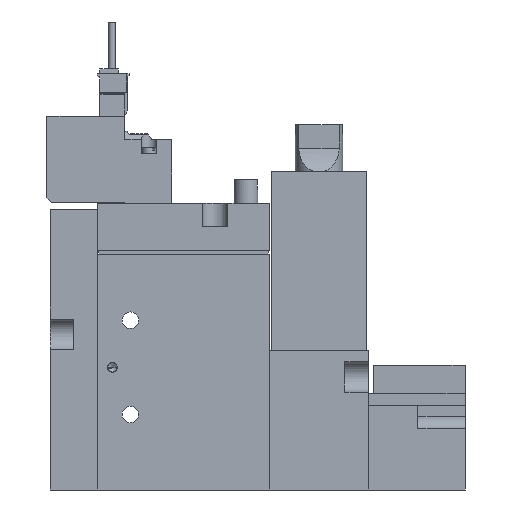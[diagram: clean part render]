
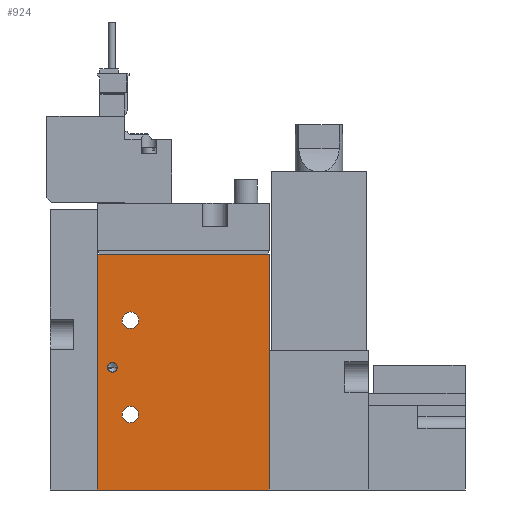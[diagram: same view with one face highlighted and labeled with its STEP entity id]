
A CAD part, left-side view. The second image highlights one B-rep face of the part: STEP entity #924.
In plain terms, the highlighted planar face has unit normal (-1, 0, 0) as drawn and (1, 0, 0) by its records, which use the part's own axes.
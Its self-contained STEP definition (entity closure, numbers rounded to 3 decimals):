
#924=ADVANCED_FACE('',(#1378,#1379,#1380,#1381),#1382,.F.);
#1378=FACE_BOUND('',#2169,.T.);
#1379=FACE_BOUND('',#2170,.T.);
#1380=FACE_BOUND('',#2171,.T.);
#1381=FACE_OUTER_BOUND('',#2172,.T.);
#1382=PLANE('',#2173);
#2169=EDGE_LOOP('',(#3349));
#2170=EDGE_LOOP('',(#3350));
#2171=EDGE_LOOP('',(#3351));
#2172=EDGE_LOOP('',(#3352,#3353,#3354,#3355));
#2173=AXIS2_PLACEMENT_3D('',#3356,#3357,#3358);
#3349=ORIENTED_EDGE('',*,*,#5712,.F.);
#3350=ORIENTED_EDGE('',*,*,#5713,.T.);
#3351=ORIENTED_EDGE('',*,*,#5714,.T.);
#3352=ORIENTED_EDGE('',*,*,#5715,.T.);
#3353=ORIENTED_EDGE('',*,*,#5716,.F.);
#3354=ORIENTED_EDGE('',*,*,#5717,.F.);
#3355=ORIENTED_EDGE('',*,*,#5718,.T.);
#3356=CARTESIAN_POINT('',(8.5,-19.444,50.0));
#3357=DIRECTION('',(-1.0,0.0,0.0));
#3358=DIRECTION('',(0.0,0.0,1.0));
#5712=EDGE_CURVE('',#6694,#6694,#6695,.T.);
#5713=EDGE_CURVE('',#6696,#6696,#6697,.T.);
#5714=EDGE_CURVE('',#6698,#6698,#6699,.T.);
#5715=EDGE_CURVE('',#6700,#6701,#6702,.T.);
#5716=EDGE_CURVE('',#6703,#6701,#6704,.T.);
#5717=EDGE_CURVE('',#6705,#6703,#6706,.T.);
#5718=EDGE_CURVE('',#6705,#6700,#6707,.T.);
#6694=VERTEX_POINT('',#8344);
#6695=CIRCLE('',#8345,1.0);
#6696=VERTEX_POINT('',#8346);
#6697=CIRCLE('',#8347,1.75);
#6698=VERTEX_POINT('',#8348);
#6699=CIRCLE('',#8349,1.75);
#6700=VERTEX_POINT('',#8350);
#6701=VERTEX_POINT('',#8351);
#6702=LINE('',#8352,#8353);
#6703=VERTEX_POINT('',#8354);
#6704=LINE('',#8355,#8356);
#6705=VERTEX_POINT('',#8357);
#6706=LINE('',#8358,#8359);
#6707=LINE('',#8360,#8361);
#8344=CARTESIAN_POINT('',(8.5,-17.244,26.0));
#8345=AXIS2_PLACEMENT_3D('',#10317,#10318,#10319);
#8346=CARTESIAN_POINT('',(8.5,-10.694,36.0));
#8347=AXIS2_PLACEMENT_3D('',#10320,#10321,#10322);
#8348=CARTESIAN_POINT('',(8.5,-10.694,16.0));
#8349=AXIS2_PLACEMENT_3D('',#10323,#10324,#10325);
#8350=CARTESIAN_POINT('',(8.5,-19.444,0.0));
#8351=CARTESIAN_POINT('',(8.5,17.056,0.0));
#8352=CARTESIAN_POINT('',(8.5,-19.444,0.0));
#8353=VECTOR('',#10326,1.0);
#8354=CARTESIAN_POINT('',(8.5,17.056,50.0));
#8355=CARTESIAN_POINT('',(8.5,17.056,50.0));
#8356=VECTOR('',#10327,1.0);
#8357=CARTESIAN_POINT('',(8.5,-19.444,50.0));
#8358=CARTESIAN_POINT('',(8.5,-19.444,50.0));
#8359=VECTOR('',#10328,1.0);
#8360=CARTESIAN_POINT('',(8.5,-19.444,50.0));
#8361=VECTOR('',#10329,1.0);
#10317=CARTESIAN_POINT('',(8.5,-16.244,26.0));
#10318=DIRECTION('',(1.0,0.,0.0));
#10319=DIRECTION('',(0.,-1.0,0.0));
#10320=CARTESIAN_POINT('',(8.5,-12.444,36.0));
#10321=DIRECTION('',(-1.0,0.0,0.0));
#10322=DIRECTION('',(0.0,1.0,0.0));
#10323=CARTESIAN_POINT('',(8.5,-12.444,16.0));
#10324=DIRECTION('',(-1.0,0.0,0.0));
#10325=DIRECTION('',(0.0,1.0,0.0));
#10326=DIRECTION('',(0.0,1.0,0.0));
#10327=DIRECTION('',(0.0,0.0,-1.0));
#10328=DIRECTION('',(0.0,1.0,0.0));
#10329=DIRECTION('',(0.0,0.0,-1.0));
